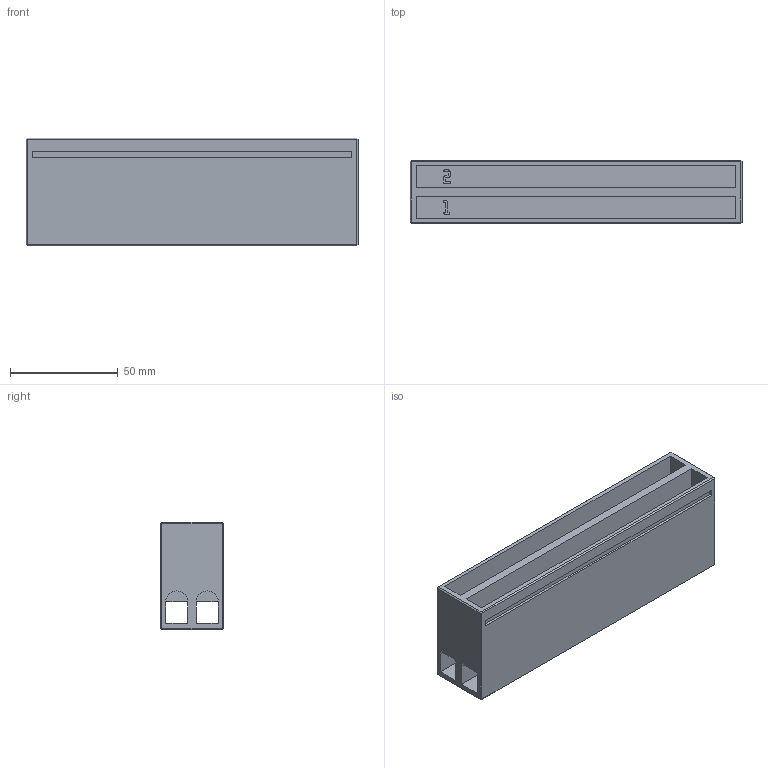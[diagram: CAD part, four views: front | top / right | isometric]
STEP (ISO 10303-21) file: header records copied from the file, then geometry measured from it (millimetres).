
FILE_DESCRIPTION(('Open CASCADE Model'),'2;1');
FILE_NAME('Open CASCADE Shape Model','2026-11-03T16:08:28',('Author'),( 'Open CASCADE'),'Open CASCADE STEP processor 8.0','build123d', 'Unknown');
FILE_SCHEMA(('AUTOMOTIVE_DESIGN { 1 0 10303 214 1 1 1 1 }'));
Length unit declared in the file: millimetre
Products named in the file (1): COMPOUND
Bounding box: 154 x 29.4 x 50 mm (x, y, z)
Volume: 81715.5 mm3; surface area: 57270.2 mm2
Topology: 1 solids, 1 shells, 259 faces, 733 edges, 478 vertices
Faces by surface type: plane 255, cylinder 4
Entity records: 17678 total; most frequent: CARTESIAN_POINT 2993, DIRECTION 2671, LINE 2127, VECTOR 2127, ORIENTED_EDGE 1466, PCURVE 1466, DEFINITIONAL_REPRESENTATION 1466, EDGE_CURVE 733
